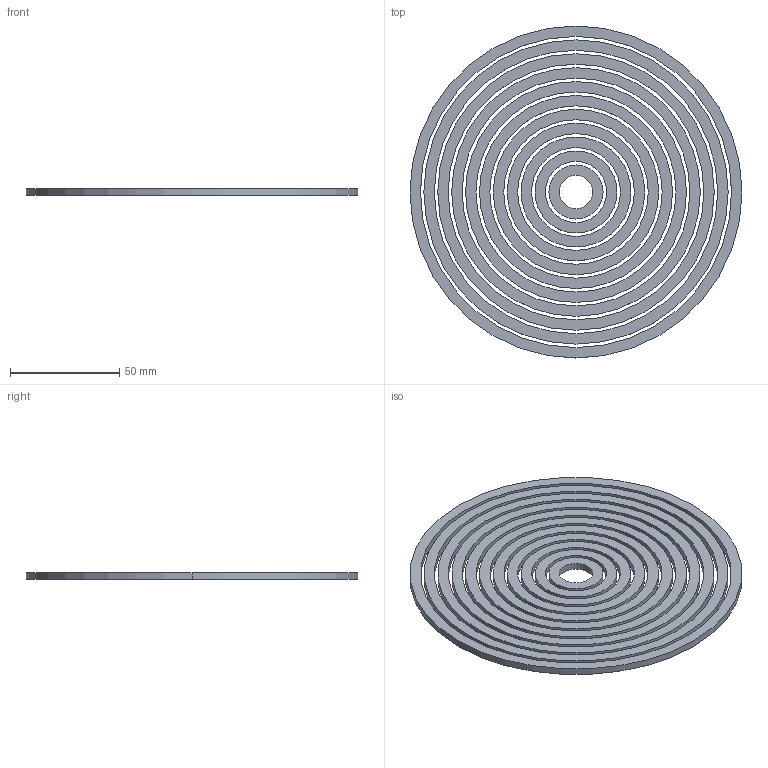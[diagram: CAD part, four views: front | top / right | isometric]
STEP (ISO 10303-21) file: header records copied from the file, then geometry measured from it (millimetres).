
FILE_DESCRIPTION (( 'STEP AP214' ), '1' );
FILE_NAME ('Ring Subasm.STEP', '2019-10-04T22:25:30', ( 'John' ), ( 'Not Good' ), 'SwSTEP 2.0', 'SolidWorks 2008', '' );
FILE_SCHEMA (( 'AUTOMOTIVE_DESIGN' ));
Length unit declared in the file: millimetre
Products named in the file (12): ring4_mill; Ring Subasm; ring6_mill; ring5_mill; ring7_mill; ring8_mill; ring9_mill; ring10_mill; ring11_mill; ring3_mill; ring2_mill; ring1_mill
Assembly tree (11 placements, depth 2):
  Ring Subasm
    ring2_mill
    ring7_mill
    ring3_mill
    ring1_mill
    ring6_mill
    ring9_mill
    ring11_mill
    ring4_mill
    ring8_mill
    ring5_mill
    ring10_mill
Bounding box: 151.76 x 151.76 x 3.17 mm (x, y, z)
Volume: 43290.7 mm3; surface area: 46275 mm2
Topology: 11 solids, 11 shells, 132 faces, 264 edges, 176 vertices
Faces by surface type: cylinder 88, plane 44
Entity records: 4679 total; most frequent: DIRECTION 732, CARTESIAN_POINT 586, ORIENTED_EDGE 528, AXIS2_PLACEMENT_3D 322, EDGE_CURVE 264, CIRCLE 176, EDGE_LOOP 176, VERTEX_POINT 176
